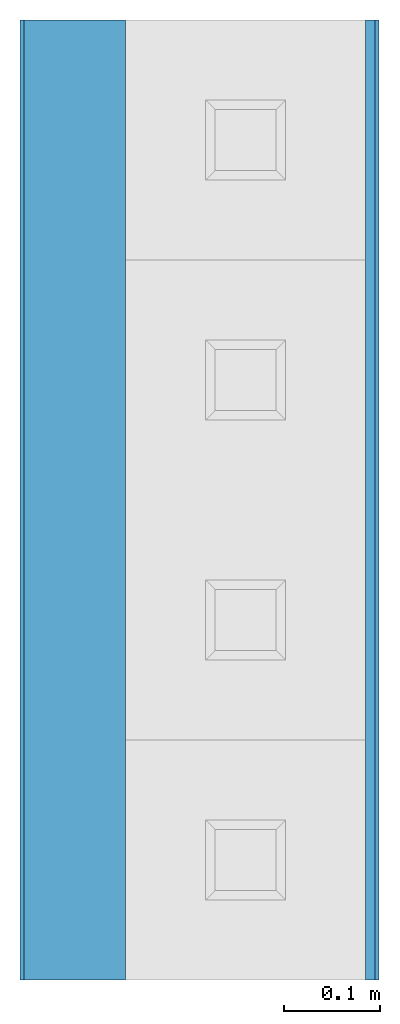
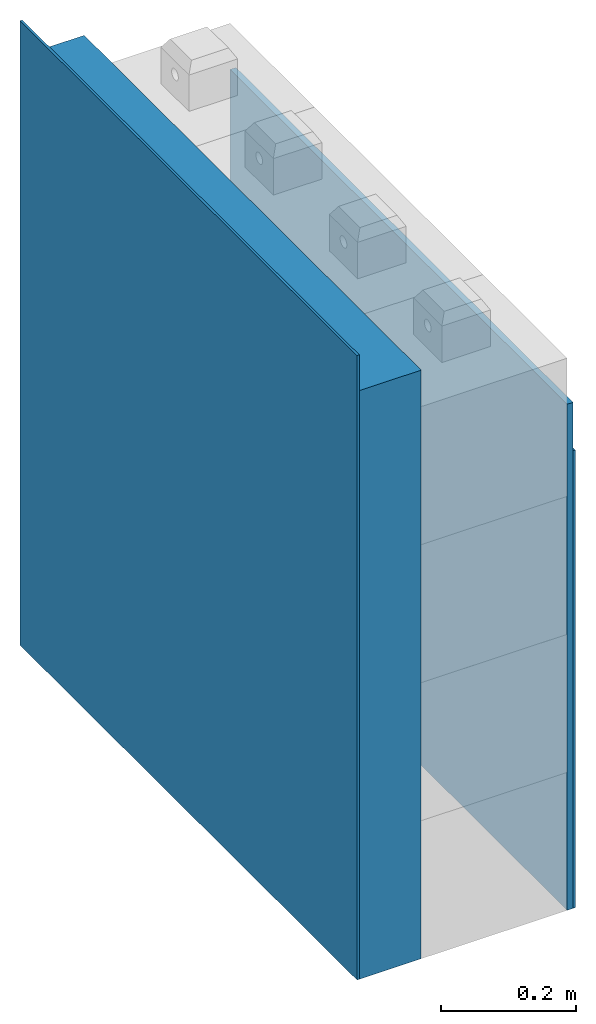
# One storey, incomplete: 4 walls.
"""IFC4 building model written with IfcOpenShell, lengths in centimetres."""

from ifc_helpers import new_model, entity, si_unit, converted_unit, direction, frame, origin, place, context, subcontext, project, spatial, indexed_curve, outline, extrude, material, constituent, constituent_set, type_object, element, save


model = new_model("IFC4")

# Units and contexts
model_context = context("Model", 3, precision=0.001, world=origin(), true_north=direction((0.0, 1.0)))
body_context = subcontext(model_context, "Body", "Model", "MODEL_VIEW")
ifc_project = project(units=[si_unit("LENGTHUNIT", "METRE", prefix="CENTI"), si_unit("AREAUNIT", "SQUARE_METRE"), si_unit("VOLUMEUNIT", "CUBIC_METRE"), converted_unit("PLANEANGLEUNIT", "DEGREE", entity("IfcPlaneAngleMeasure", 0.017453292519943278), si_unit("PLANEANGLEUNIT", "RADIAN"), dimensions=[0, 0, 0, 0, 0, 0, 0])], contexts=[model_context])

# Site, building, storey
site_placement = place(None, origin())
site = spatial("IfcSite", under=ifc_project, at=site_placement, Name="Default", CompositionType="ELEMENT")
building_placement = place(site_placement, origin())
building = spatial("IfcBuilding", under=site, at=building_placement, CompositionType="ELEMENT")
storey_placement = place(building_placement, frame((0.0, 0.0, -12.0)))
storey = spatial("IfcBuildingStorey", under=building, at=storey_placement, Name="L00__ABOVE Slab", CompositionType="ELEMENT", Elevation=-12.000000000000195)

# Walls
ifc_material_1 = material(Name="_FND LAYERS__Insulation__Foam Glass__Glapor", Category="Unassigned")
ifc_constituent_1 = constituent(ifc_material_1, Name="_FND LAYERS__Insulation__Foam Glass__Glapor", Category="Unassigned", fraction=1.0)
ifc_constituent_set_1 = constituent_set(constituents=[ifc_constituent_1], Name="Basic Wall:wll__WP & INSULATION_1cm")
wall_type_1 = type_object("IfcWallType", Name="Walls : Basic Wall : wll__WP & INSULATION_1cm", PredefinedType="STANDARD", material=ifc_constituent_set_1)
wall_1_placement = place(storey_placement, frame((4789.649456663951, 1154.5650447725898, 10.0), z_axis=(0.0, 0.0, 1.0), x_axis=(0.0, 1.0, 0.0)))
element("IfcWall", 1, at=wall_1_placement, inside=storey, type_object=wall_type_1, material=ifc_constituent_set_1, Name="Walls : Basic Wall : wll__WP & INSULATION_1cm", PredefinedType="NOTDEFINED", context=body_context, shape_type="SweptSolid", body=[
    extrude(outline(indexed_curve([(100.00000000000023, 0.499999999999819), (4.668391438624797e-15, 0.4999999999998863), (-4.668391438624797e-15, -0.4999999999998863), (100.00000000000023, -0.4999999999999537), (100.00000000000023, 0.499999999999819)], self_intersect=False)), origin(), (0.0, 0.0, 1.0), 91.66666666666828),
])
ifc_material_2 = material(Name="_FCD FINISH__Spray-cork", Category="Concrete")
ifc_constituent_2 = constituent(ifc_material_2, Name="_FCD FINISH__Spray-cork", Category="Concrete", fraction=0.05660377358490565)
ifc_material_3 = material(Name="_FCD LAYERS__Insulation__Wood-fiber__Steico", Category="Unassigned")
ifc_constituent_3 = constituent(ifc_material_3, Name="_FCD LAYERS__Insulation__Wood-fiber__Steico", Category="Unassigned", fraction=0.9433962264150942)
ifc_constituent_set_2 = constituent_set(constituents=[ifc_constituent_2, ifc_constituent_3], Name="Basic Wall:wll__EXT ENCLOSURE__Spritzkork, Wood Insulation 10.6cm__TriqBriq, FS.3")
wall_type_2 = type_object("IfcWallType", Name="Walls : Basic Wall : wll__EXT ENCLOSURE__Spritzkork, Wood Insulation 10.6cm__TriqBriq, FS.3", PredefinedType="STANDARD", material=ifc_constituent_set_2)
wall_2_placement = place(storey_placement, frame((4758.849456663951, 1254.56504477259, 10.0), z_axis=(0.0, 0.0, 1.0), x_axis=(0.0, -1.0, 0.0)))
element("IfcWall", 2, at=wall_2_placement, inside=storey, type_object=wall_type_2, material=ifc_constituent_set_2, Name="Walls : Basic Wall : wll__EXT ENCLOSURE__Spritzkork, Wood Insulation 10.6cm__TriqBriq, FS.3", PredefinedType="NOTDEFINED", context=body_context, shape_type="SweptSolid", body=[
    extrude(outline(indexed_curve([(-4.999999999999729, -50.000000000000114), (4.999999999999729, -50.000000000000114), (4.999999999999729, 50.000000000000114), (-4.999999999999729, 50.000000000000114), (-4.999999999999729, -50.000000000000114)], self_intersect=False)), frame((50.0, 0.29999999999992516, 0.0), z_axis=(0.0, 0.0, 1.0), x_axis=(0.0, -1.0, 0.0)), (0.0, 0.0, 1.0), 106.6033333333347),
    extrude(outline(indexed_curve([(-0.3000000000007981, -50.000000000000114), (0.29999999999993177, -50.000000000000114), (0.29999999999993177, 50.000000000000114), (-0.3000000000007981, 50.000000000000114), (-0.3000000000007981, -50.000000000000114)], self_intersect=False)), frame((50.0, -5.0, 0.0), z_axis=(0.0, 0.0, 1.0), x_axis=(0.0, 1.0, 0.0)), (0.0, 0.0, 1.0), 106.6033333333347),
])
ifc_material_4 = material(Name="_WLL & CLG FINISHES__Spray-cork", Category="플라스틱")
ifc_constituent_4 = constituent(ifc_material_4, Name="_WLL & CLG FINISHES__Spray-cork", Category="플라스틱", fraction=1.0)
ifc_constituent_set_3 = constituent_set(constituents=[ifc_constituent_4], Name="Basic Wall:wll__INT FINISH__Spritzkork 0.4cm__TriqBriq, TN.1")
wall_type_3 = type_object("IfcWallType", Name="Walls : Basic Wall : wll__INT FINISH__Spritzkork 0.4cm__TriqBriq, TN.1", PredefinedType="STANDARD", material=ifc_constituent_set_3)
wall_3_placement = place(storey_placement, frame((4753.349456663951, 1254.56504477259, 10.0), z_axis=(0.0, 0.0, 1.0), x_axis=(0.0, -1.0, 0.0)))
element("IfcWall", 3, at=wall_3_placement, inside=storey, type_object=wall_type_3, material=ifc_constituent_set_3, Name="Walls : Basic Wall : wll__INT FINISH__Spritzkork 0.4cm__TriqBriq, TN.1", PredefinedType="NOTDEFINED", context=body_context, shape_type="SweptSolid", body=[
    extrude(outline(indexed_curve([(100.00000000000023, 0.2000000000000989), (-2.8876456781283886e-16, 0.19999999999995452), (2.8876456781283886e-16, -0.19999999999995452), (100.00000000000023, -0.19999999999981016), (100.00000000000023, 0.2000000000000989)], self_intersect=False)), origin(), (0.0, 0.0, 1.0), 113.08526190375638),
])
wall_4_placement = place(storey_placement, frame((4790.349456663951, 1154.5650447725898, 10.0), z_axis=(0.0, 0.0, 1.0), x_axis=(0.0, 1.0, 0.0)))
element("IfcWall", 4, at=wall_4_placement, inside=storey, type_object=wall_type_3, material=ifc_constituent_set_3, Name="Walls : Basic Wall : wll__INT FINISH__Spritzkork 0.4cm__TriqBriq, TN.1", PredefinedType="NOTDEFINED", context=body_context, shape_type="SweptSolid", body=[
    extrude(outline(indexed_curve([(100.00000000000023, 0.19999999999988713), (1.8673565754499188e-15, 0.19999999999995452), (-1.8673565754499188e-15, -0.19999999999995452), (100.00000000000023, -0.2000000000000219), (100.00000000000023, 0.19999999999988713)], self_intersect=False)), origin(), (0.0, 0.0, 1.0), 82.90025646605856),
])

save(model, "model.ifc")
